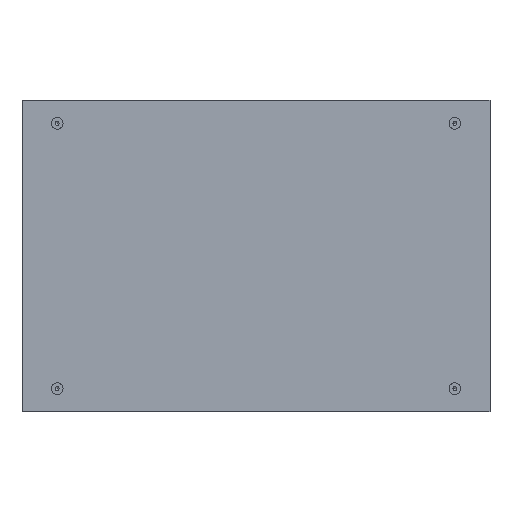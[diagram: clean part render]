
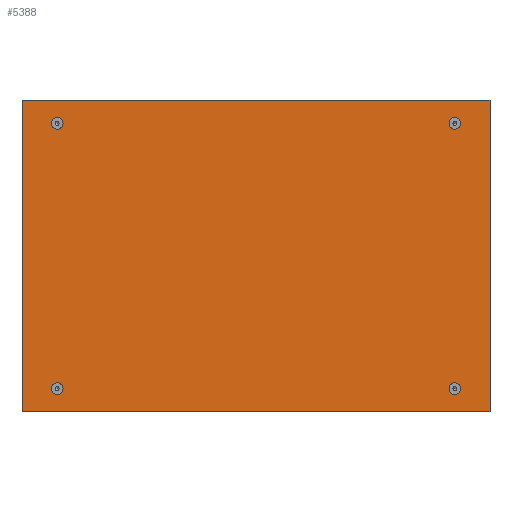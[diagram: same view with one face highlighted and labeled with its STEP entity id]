
A CAD part, left-side view. The second image highlights one B-rep face of the part: STEP entity #5388.
In plain terms, the highlighted planar face has unit normal (-1, 0, 0).
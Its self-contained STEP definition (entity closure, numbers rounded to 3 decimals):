
#325=CIRCLE('',#7120,5.125);
#326=CIRCLE('',#7121,5.125);
#327=CIRCLE('',#7122,5.125);
#328=CIRCLE('',#7123,5.125);
#674=ORIENTED_EDGE('',*,*,#2105,.T.);
#675=ORIENTED_EDGE('',*,*,#2106,.T.);
#676=ORIENTED_EDGE('',*,*,#2107,.T.);
#677=ORIENTED_EDGE('',*,*,#2108,.T.);
#678=ORIENTED_EDGE('',*,*,#2109,.F.);
#679=ORIENTED_EDGE('',*,*,#2110,.F.);
#680=ORIENTED_EDGE('',*,*,#2111,.F.);
#681=ORIENTED_EDGE('',*,*,#2112,.F.);
#2105=EDGE_CURVE('',#2820,#2821,#3363,.T.);
#2106=EDGE_CURVE('',#2821,#2822,#3364,.T.);
#2107=EDGE_CURVE('',#2822,#2823,#3365,.T.);
#2108=EDGE_CURVE('',#2823,#2820,#3366,.T.);
#2109=EDGE_CURVE('',#2824,#2824,#325,.T.);
#2110=EDGE_CURVE('',#2825,#2825,#326,.T.);
#2111=EDGE_CURVE('',#2826,#2826,#327,.T.);
#2112=EDGE_CURVE('',#2827,#2827,#328,.T.);
#2820=VERTEX_POINT('',#9503);
#2821=VERTEX_POINT('',#9504);
#2822=VERTEX_POINT('',#9506);
#2823=VERTEX_POINT('',#9508);
#2824=VERTEX_POINT('',#9511);
#2825=VERTEX_POINT('',#9513);
#2826=VERTEX_POINT('',#9515);
#2827=VERTEX_POINT('',#9517);
#3363=LINE('',#9502,#3899);
#3364=LINE('',#9505,#3900);
#3365=LINE('',#9507,#3901);
#3366=LINE('',#9509,#3902);
#3899=VECTOR('',#7817,1000.);
#3900=VECTOR('',#7818,1000.);
#3901=VECTOR('',#7819,1000.);
#3902=VECTOR('',#7820,1000.);
#4344=EDGE_LOOP('',(#674,#675,#676,#677));
#4345=EDGE_LOOP('',(#678));
#4346=EDGE_LOOP('',(#679));
#4347=EDGE_LOOP('',(#680));
#4348=EDGE_LOOP('',(#681));
#4756=FACE_BOUND('',#4344,.T.);
#4757=FACE_BOUND('',#4345,.T.);
#4758=FACE_BOUND('',#4346,.T.);
#4759=FACE_BOUND('',#4347,.T.);
#4760=FACE_BOUND('',#4348,.T.);
#5165=PLANE('',#7119);
#5388=ADVANCED_FACE('',(#4756,#4757,#4758,#4759,#4760),#5165,.T.);
#7119=AXIS2_PLACEMENT_3D('',#9501,#7815,#7816);
#7120=AXIS2_PLACEMENT_3D('',#9510,#7821,#7822);
#7121=AXIS2_PLACEMENT_3D('',#9512,#7823,#7824);
#7122=AXIS2_PLACEMENT_3D('',#9514,#7825,#7826);
#7123=AXIS2_PLACEMENT_3D('',#9516,#7827,#7828);
#7815=DIRECTION('',(-1.,0.,0.));
#7816=DIRECTION('',(0.,-1.,0.));
#7817=DIRECTION('',(0.,0.,1.));
#7818=DIRECTION('',(0.,1.,0.));
#7819=DIRECTION('',(0.,0.,-1.));
#7820=DIRECTION('',(0.,-1.,0.));
#7821=DIRECTION('',(-1.,0.,0.));
#7822=DIRECTION('',(0.,-1.,0.));
#7823=DIRECTION('',(-1.,0.,0.));
#7824=DIRECTION('',(0.,-1.,0.));
#7825=DIRECTION('',(-1.,0.,0.));
#7826=DIRECTION('',(0.,-1.,0.));
#7827=DIRECTION('',(-1.,0.,0.));
#7828=DIRECTION('',(0.,-1.,0.));
#9501=CARTESIAN_POINT('',(-1.2,0.,0.));
#9502=CARTESIAN_POINT('',(-1.2,-300.,0.));
#9503=CARTESIAN_POINT('',(-1.2,-300.,-200.));
#9504=CARTESIAN_POINT('',(-1.2,-300.,200.));
#9505=CARTESIAN_POINT('',(-1.2,0.,200.));
#9506=CARTESIAN_POINT('',(-1.2,300.,200.));
#9507=CARTESIAN_POINT('',(-1.2,300.,0.));
#9508=CARTESIAN_POINT('',(-1.2,300.,-200.));
#9509=CARTESIAN_POINT('',(-1.2,0.,-200.));
#9510=CARTESIAN_POINT('',(-1.2,-255.,-170.));
#9511=CARTESIAN_POINT('',(-1.2,-260.125,-170.));
#9512=CARTESIAN_POINT('',(-1.2,255.,-170.));
#9513=CARTESIAN_POINT('',(-1.2,249.875,-170.));
#9514=CARTESIAN_POINT('',(-1.2,255.,170.));
#9515=CARTESIAN_POINT('',(-1.2,249.875,170.));
#9516=CARTESIAN_POINT('',(-1.2,-255.,170.));
#9517=CARTESIAN_POINT('',(-1.2,-260.125,170.));
